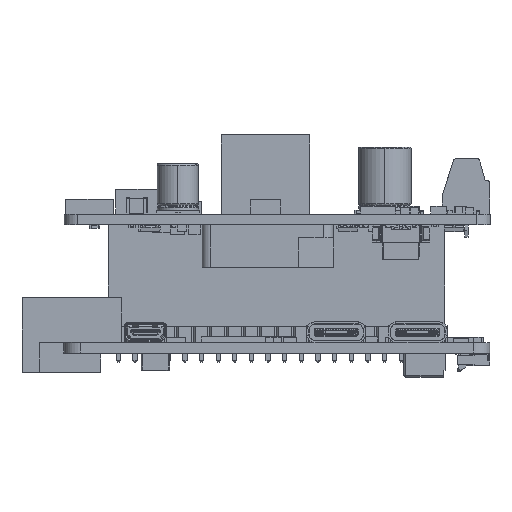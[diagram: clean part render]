
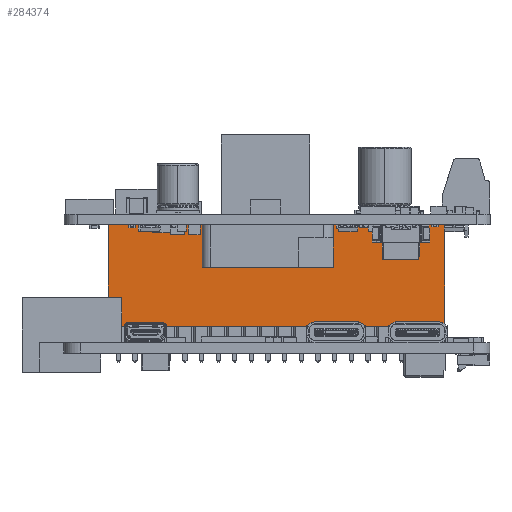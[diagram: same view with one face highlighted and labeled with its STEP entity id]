
A CAD part, front view. The second image highlights one B-rep face of the part: STEP entity #284374.
In plain terms, the highlighted planar face has unit normal (0.001, -1, 0).
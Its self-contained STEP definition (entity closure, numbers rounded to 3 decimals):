
#221638=DIRECTION('',(1.,0.,0.));
#221639=VECTOR('',#221638,51.4);
#221640=CARTESIAN_POINT('',(3.18,20.58,0.));
#221641=LINE('',#221640,#221639);
#221645=DIRECTION('',(0.,0.,1.));
#221646=VECTOR('',#221645,15.5);
#221647=CARTESIAN_POINT('',(3.18,20.58,-15.5));
#221648=LINE('',#221647,#221646);
#221659=DIRECTION('',(0.,0.,1.));
#221660=VECTOR('',#221659,15.5);
#221661=CARTESIAN_POINT('',(54.58,20.58,-15.5));
#221662=LINE('',#221661,#221660);
#221694=DIRECTION('',(1.,0.,0.));
#221695=VECTOR('',#221694,51.4);
#221696=CARTESIAN_POINT('',(3.18,20.58,-15.5));
#221697=LINE('',#221696,#221695);
#272437=CARTESIAN_POINT('',(3.18,20.58,0.));
#272438=CARTESIAN_POINT('',(54.58,20.58,0.));
#272439=VERTEX_POINT('',#272437);
#272440=VERTEX_POINT('',#272438);
#273323=CARTESIAN_POINT('',(54.58,20.58,-15.5));
#273324=VERTEX_POINT('',#273323);
#273325=CARTESIAN_POINT('',(3.18,20.58,-15.5));
#273326=VERTEX_POINT('',#273325);
#284360=CARTESIAN_POINT('',(54.58,20.58,0.));
#284361=DIRECTION('',(0.,-1.,0.));
#284362=DIRECTION('',(-1.,0.,0.));
#284363=AXIS2_PLACEMENT_3D('',#284360,#284361,#284362);
#284364=PLANE('',#284363);
#284365=ORIENTED_EDGE('',*,*,#282657,.T.);
#284367=ORIENTED_EDGE('',*,*,#284366,.F.);
#284369=ORIENTED_EDGE('',*,*,#284368,.F.);
#284371=ORIENTED_EDGE('',*,*,#284370,.T.);
#284372=EDGE_LOOP('',(#284365,#284367,#284369,#284371));
#284373=FACE_OUTER_BOUND('',#284372,.F.);
#284374=ADVANCED_FACE('',(#284373),#284364,.T.);
#282657=EDGE_CURVE('',#272439,#272440,#221641,.T.);
#284366=EDGE_CURVE('',#273324,#272440,#221662,.T.);
#284368=EDGE_CURVE('',#273326,#273324,#221697,.T.);
#284370=EDGE_CURVE('',#273326,#272439,#221648,.T.);
